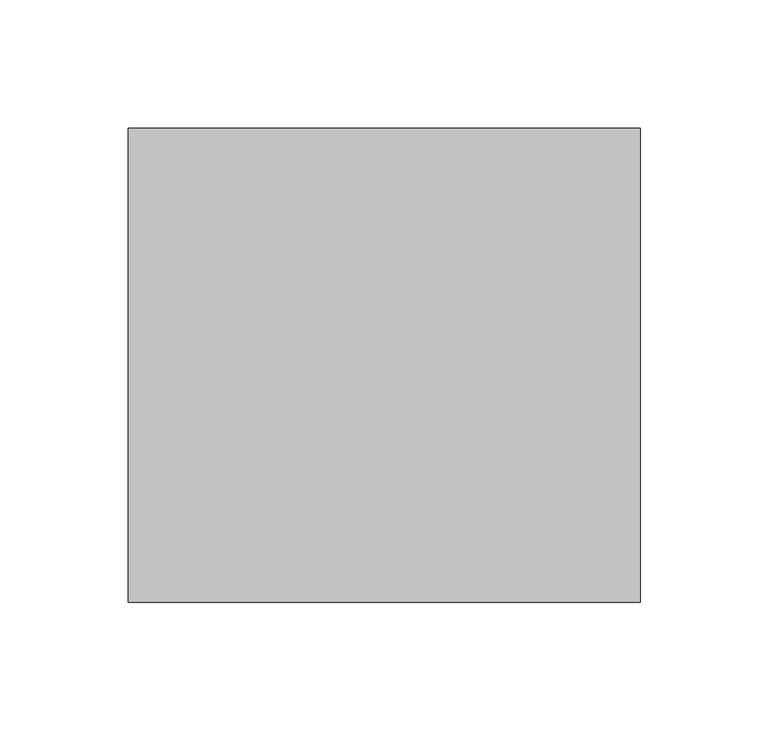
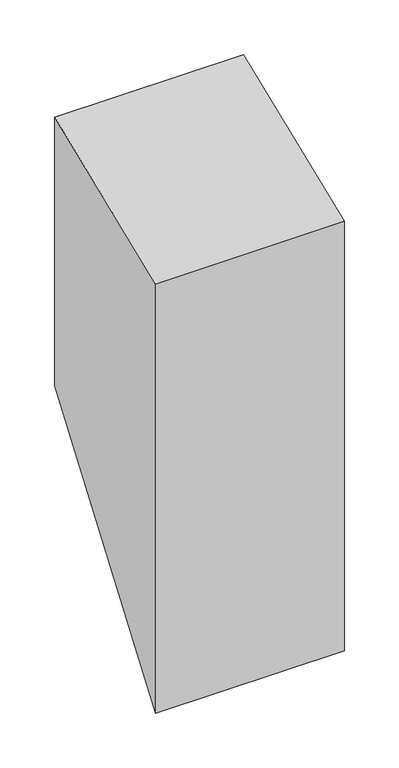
"""IFC4 building model written with IfcOpenShell, lengths in millimetres: beam geometry, appoggiTravi40 : appoggiTravi."""

from ifc_helpers import new_model, si_unit, origin, place, context, project, spatial, faceted_brep, source, transform, mapped, element, save


def beam_c4b6eae7(model_context):
    return source(origin(), model_context, "Body", "Brep", [
        faceted_brep([(17042.3599913, 24463.3920025, -4734.2250558), (16842.3599913, 24463.3920025, -4734.2250558), (16842.3599913, 24463.3920025, -5214.2250558), (17042.3599913, 24463.3920025, -5214.2250558), (17042.3599913, 24648.7104492, -4660.0677053), (17042.3599913, 24648.7104492, -4960.0675611), (16842.3599913, 24648.7104492, -4960.0675611), (16842.3599913, 24648.7104492, -4660.0677053)], [[[0, 1, 2, 3]], [[4, 5, 6, 7]], [[4, 7, 1, 0]], [[7, 6, 2, 1]], [[6, 5, 3, 2]], [[5, 4, 0, 3]]]),
    ])


if __name__ == "__main__":
    model = new_model("IFC4")
    model_context = context("Model", 3, world=origin())
    ifc_project = project(units=[si_unit("LENGTHUNIT", "METRE", prefix="MILLI")], contexts=[model_context])
    site = spatial("IfcSite", under=ifc_project)
    building = spatial("IfcBuilding", under=site)
    placement = place(None, origin())
    beam_shape = beam_c4b6eae7(model_context)
    element("IfcBeam", 1, ObjectType="appoggiTravi40 : appoggiTravi", at=placement, inside=building, context=model_context, shape_type="MappedRepresentation", body=[
        mapped(beam_shape, transform((0.0, 0.0, 0.0), x_axis=(1.0, 0.0, 0.0), y_axis=(0.0, 1.0, 0.0), z_axis=(0.0, 0.0, 1.0))),
    ])
    save(model, "model.ifc")
